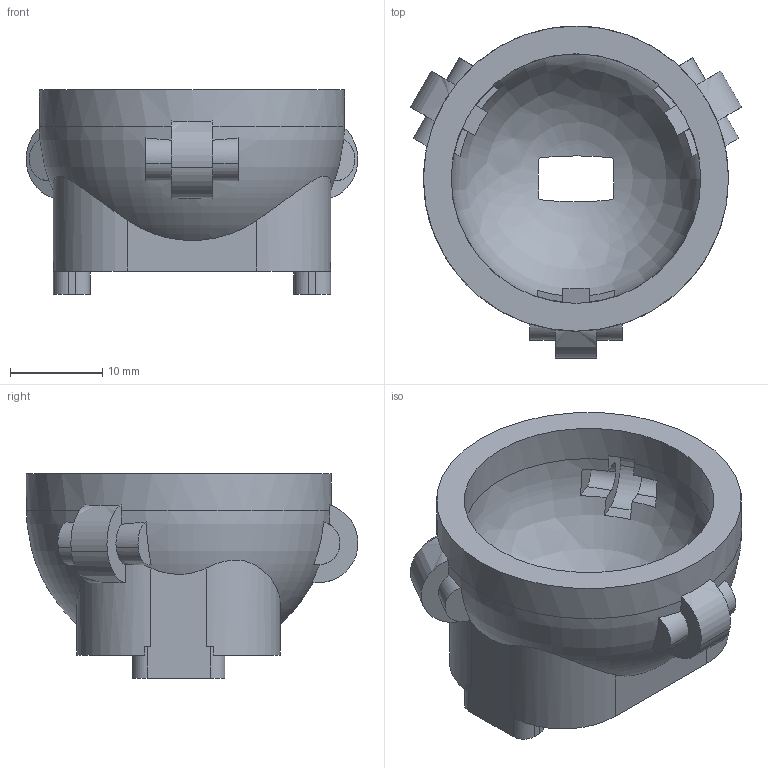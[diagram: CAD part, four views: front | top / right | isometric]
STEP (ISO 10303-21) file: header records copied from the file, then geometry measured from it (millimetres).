
FILE_DESCRIPTION(('Open CASCADE Model'),'2;1');
FILE_NAME('Open CASCADE Shape Model','2026-06-04T07:58:02',('Author'),( 'Open CASCADE'),'Open CASCADE STEP processor 7.6','Open CASCADE 7.6' ,'Unknown');
FILE_SCHEMA(('AP242_MANAGED_MODEL_BASED_3D_ENGINEERING_MIM_LF. {1 0 10303 442 1 1 4 }'));
Length unit declared in the file: millimetre
Products named in the file (1): Open CASCADE STEP translator 7.6 2
Bounding box: 35.84 x 35.89 x 22.1 mm (x, y, z)
Volume: 6690.8 mm3; surface area: 5255.1 mm2
Topology: 1 solids, 1 shells, 149 faces, 434 edges, 287 vertices
Faces by surface type: plane 82, extrusion 36, cylinder 22, bspline 4, revolution 3, cone 2
Full cylindrical faces by diameter (mm): 2.05 x2, 27 x1, 33 x1
Entity records: 21558 total; most frequent: CARTESIAN_POINT 13392, DIRECTION 1372, ORIENTED_EDGE 864, PCURVE 864, DEFINITIONAL_REPRESENTATION 864, VECTOR 744, LINE 708, EDGE_CURVE 432
